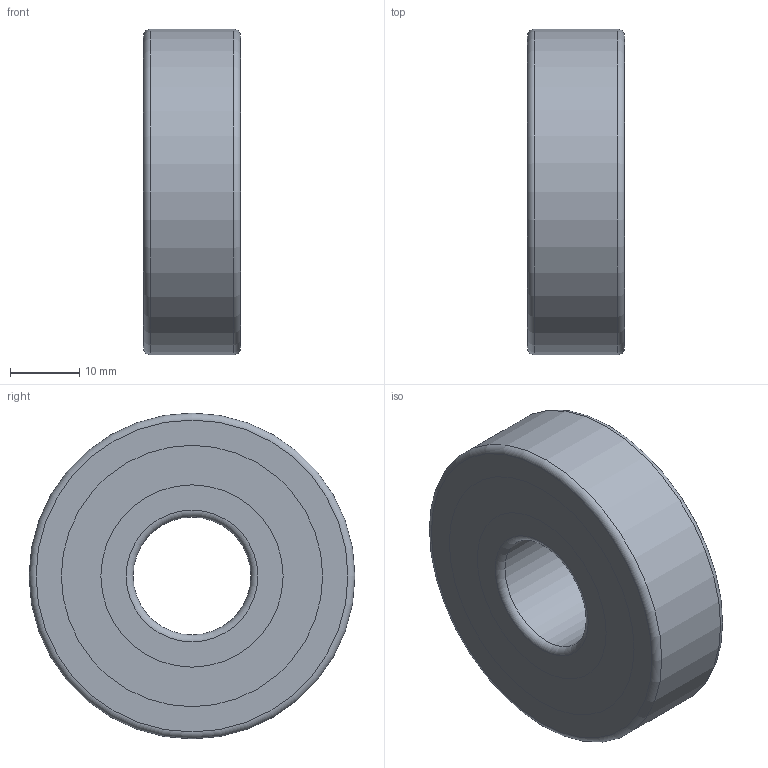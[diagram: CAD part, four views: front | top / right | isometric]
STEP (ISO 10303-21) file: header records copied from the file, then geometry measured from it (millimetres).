
FILE_DESCRIPTION(/* description */ (''),/* implementation_level */ '2;1');
FILE_NAME(/* name */ '1303-2RS.stp',/* time_stamp */ '2024-11-11T07:33:57+01:00',/* author */ ('OUPIONTEKM'),/* organization */ (''),/* preprocessor_version */ 'ST-DEVELOPER v20',/* originating_system */ 'Autodesk Inventor 2025',/* authorisation */ '');
FILE_SCHEMA (('AUTOMOTIVE_DESIGN { 1 0 10303 214 3 1 1 }'));
Length unit declared in the file: millimetre
Products named in the file (6): 1303; 1303-02; 1303-ball; 1303-01; 1303-cage; rs
Assembly tree (16 placements, depth 2):
  1303
    1303-02
    1303-ball  x12
    1303-01
    1303-cage
    rs
Bounding box: 14 x 47 x 47 mm (x, y, z)
Volume: 15906.2 mm3; surface area: 15383.8 mm2
Topology: 17 solids, 17 shells, 214 faces, 633 edges, 422 vertices
Faces by surface type: cylinder 85, torus 36, cone 36, plane 32, sphere 25
Full cylindrical faces by diameter (mm): 17 x1, 26.285 x5, 27.714 x1, 37.001 x1, 37.691 x4, 47 x1
Entity records: 8661 total; most frequent: CARTESIAN_POINT 3019, ORIENTED_EDGE 1184, DIRECTION 1153, EDGE_CURVE 592, AXIS2_PLACEMENT_3D 546, VERTEX_POINT 400, CIRCLE 297, EDGE_LOOP 212
